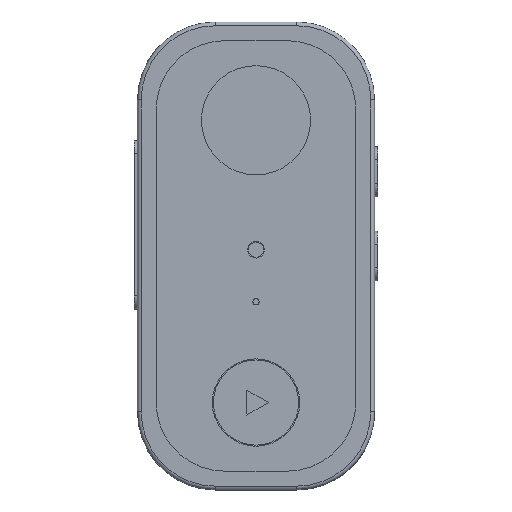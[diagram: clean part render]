
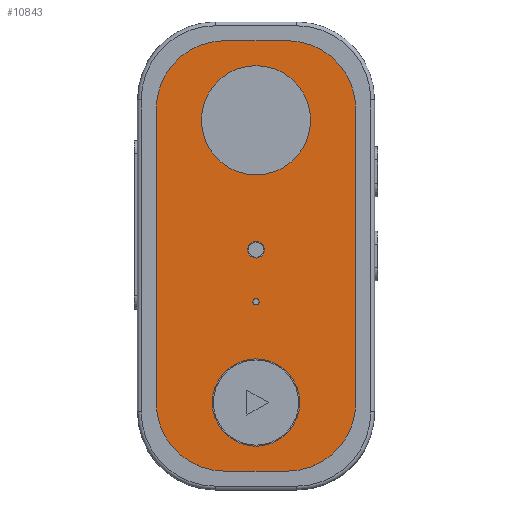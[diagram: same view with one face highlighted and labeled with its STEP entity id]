
A CAD part, top view. The second image highlights one B-rep face of the part: STEP entity #10843.
In plain terms, the highlighted planar face has unit normal (0, 0, 1).
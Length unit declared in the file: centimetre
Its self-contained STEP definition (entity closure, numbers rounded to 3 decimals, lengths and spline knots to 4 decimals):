
#112=FACE_BOUND('',#1456,.T.);
#113=FACE_BOUND('',#1457,.T.);
#114=FACE_BOUND('',#1458,.T.);
#115=FACE_BOUND('',#1459,.T.);
#319=PLANE('',#11678);
#829=FACE_OUTER_BOUND('',#1455,.T.);
#1455=EDGE_LOOP('',(#8477,#8478,#8479,#8480,#8481,#8482,#8483,#8484));
#1456=EDGE_LOOP('',(#8485));
#1457=EDGE_LOOP('',(#8486));
#1458=EDGE_LOOP('',(#8487));
#1459=EDGE_LOOP('',(#8488));
#2339=LINE('',#16675,#3571);
#2343=LINE('',#16684,#3575);
#2348=LINE('',#16700,#3580);
#2349=LINE('',#16702,#3581);
#3571=VECTOR('',#13453,1.);
#3575=VECTOR('',#13463,1.);
#3580=VECTOR('',#13482,1.);
#3581=VECTOR('',#13485,1.);
#4450=CIRCLE('',#11617,0.1);
#4451=CIRCLE('',#11619,0.27);
#4452=CIRCLE('',#11621,1.4);
#4453=CIRCLE('',#11623,1.75);
#4467=CIRCLE('',#11669,2.2);
#4468=CIRCLE('',#11672,2.2);
#4469=CIRCLE('',#11674,2.2);
#4470=CIRCLE('',#11676,2.2);
#5054=VERTEX_POINT('',#16571);
#5055=VERTEX_POINT('',#16575);
#5056=VERTEX_POINT('',#16579);
#5057=VERTEX_POINT('',#16583);
#5074=VERTEX_POINT('',#16672);
#5075=VERTEX_POINT('',#16674);
#5076=VERTEX_POINT('',#16678);
#5077=VERTEX_POINT('',#16682);
#5078=VERTEX_POINT('',#16686);
#5079=VERTEX_POINT('',#16690);
#5080=VERTEX_POINT('',#16694);
#5081=VERTEX_POINT('',#16696);
#6275=EDGE_CURVE('',#5054,#5054,#4450,.T.);
#6277=EDGE_CURVE('',#5055,#5055,#4451,.T.);
#6279=EDGE_CURVE('',#5056,#5056,#4452,.T.);
#6281=EDGE_CURVE('',#5057,#5057,#4453,.T.);
#6322=EDGE_CURVE('',#5075,#5074,#2339,.T.);
#6325=EDGE_CURVE('',#5074,#5076,#4467,.T.);
#6327=EDGE_CURVE('',#5076,#5077,#2343,.T.);
#6329=EDGE_CURVE('',#5077,#5078,#4468,.T.);
#6330=EDGE_CURVE('',#5079,#5075,#4469,.T.);
#6333=EDGE_CURVE('',#5081,#5080,#4470,.T.);
#6335=EDGE_CURVE('',#5080,#5079,#2348,.T.);
#6336=EDGE_CURVE('',#5078,#5081,#2349,.T.);
#8477=ORIENTED_EDGE('',*,*,#6322,.T.);
#8478=ORIENTED_EDGE('',*,*,#6325,.T.);
#8479=ORIENTED_EDGE('',*,*,#6327,.T.);
#8480=ORIENTED_EDGE('',*,*,#6329,.T.);
#8481=ORIENTED_EDGE('',*,*,#6336,.T.);
#8482=ORIENTED_EDGE('',*,*,#6333,.T.);
#8483=ORIENTED_EDGE('',*,*,#6335,.T.);
#8484=ORIENTED_EDGE('',*,*,#6330,.T.);
#8485=ORIENTED_EDGE('',*,*,#6275,.T.);
#8486=ORIENTED_EDGE('',*,*,#6277,.T.);
#8487=ORIENTED_EDGE('',*,*,#6279,.T.);
#8488=ORIENTED_EDGE('',*,*,#6281,.T.);
#10843=ADVANCED_FACE('',(#829,#112,#113,#114,#115),#319,.T.);
#11617=AXIS2_PLACEMENT_3D('',#16573,#13321,#13322);
#11619=AXIS2_PLACEMENT_3D('',#16577,#13326,#13327);
#11621=AXIS2_PLACEMENT_3D('',#16581,#13331,#13332);
#11623=AXIS2_PLACEMENT_3D('',#16585,#13336,#13337);
#11669=AXIS2_PLACEMENT_3D('',#16680,#13458,#13459);
#11672=AXIS2_PLACEMENT_3D('',#16688,#13467,#13468);
#11674=AXIS2_PLACEMENT_3D('',#16691,#13471,#13472);
#11676=AXIS2_PLACEMENT_3D('',#16697,#13477,#13478);
#11678=AXIS2_PLACEMENT_3D('',#16701,#13483,#13484);
#13321=DIRECTION('center_axis',(0.,0.,-1.));
#13322=DIRECTION('ref_axis',(1.,0.,0.));
#13326=DIRECTION('center_axis',(0.,0.,-1.));
#13327=DIRECTION('ref_axis',(1.,0.,0.));
#13331=DIRECTION('center_axis',(0.,0.,-1.));
#13332=DIRECTION('ref_axis',(1.,0.,0.));
#13336=DIRECTION('center_axis',(0.,0.,-1.));
#13337=DIRECTION('ref_axis',(1.,0.,0.));
#13453=DIRECTION('',(-1.,0.,0.));
#13458=DIRECTION('center_axis',(0.,0.,1.));
#13459=DIRECTION('ref_axis',(1.,0.,0.));
#13463=DIRECTION('',(0.,-1.,0.));
#13467=DIRECTION('center_axis',(0.,0.,1.));
#13468=DIRECTION('ref_axis',(1.,0.,0.));
#13471=DIRECTION('center_axis',(0.,0.,1.));
#13472=DIRECTION('ref_axis',(1.,0.,0.));
#13477=DIRECTION('center_axis',(0.,0.,1.));
#13478=DIRECTION('ref_axis',(1.,0.,0.));
#13482=DIRECTION('',(0.,1.,0.));
#13483=DIRECTION('center_axis',(0.,0.,1.));
#13484=DIRECTION('ref_axis',(1.,0.,0.));
#13485=DIRECTION('',(1.,0.,0.));
#16571=CARTESIAN_POINT('',(-0.1,-1.471,0.));
#16573=CARTESIAN_POINT('Origin',(0.,-1.471,0.));
#16575=CARTESIAN_POINT('',(-0.27,0.2,0.));
#16577=CARTESIAN_POINT('Origin',(0.,0.2,0.));
#16579=CARTESIAN_POINT('',(-1.4,-4.7,0.));
#16581=CARTESIAN_POINT('Origin',(0.,-4.7,0.));
#16583=CARTESIAN_POINT('',(-1.75,4.35,0.));
#16585=CARTESIAN_POINT('Origin',(0.,4.35,0.));
#16672=CARTESIAN_POINT('',(-1.,6.9,0.));
#16674=CARTESIAN_POINT('',(1.,6.9,0.));
#16675=CARTESIAN_POINT('',(0.,6.9,0.));
#16678=CARTESIAN_POINT('',(-3.2,4.7,0.));
#16680=CARTESIAN_POINT('Origin',(-1.,4.7,0.));
#16682=CARTESIAN_POINT('',(-3.2,-4.7,0.));
#16684=CARTESIAN_POINT('',(-3.2,0.,0.));
#16686=CARTESIAN_POINT('',(-1.,-6.9,0.));
#16688=CARTESIAN_POINT('Origin',(-1.,-4.7,0.));
#16690=CARTESIAN_POINT('',(3.2,4.7,0.));
#16691=CARTESIAN_POINT('Origin',(1.,4.7,0.));
#16694=CARTESIAN_POINT('',(3.2,-4.7,0.));
#16696=CARTESIAN_POINT('',(1.,-6.9,0.));
#16697=CARTESIAN_POINT('Origin',(1.,-4.7,0.));
#16700=CARTESIAN_POINT('',(3.2,0.,0.));
#16701=CARTESIAN_POINT('Origin',(0.,0.,0.));
#16702=CARTESIAN_POINT('',(0.,-6.9,0.));
